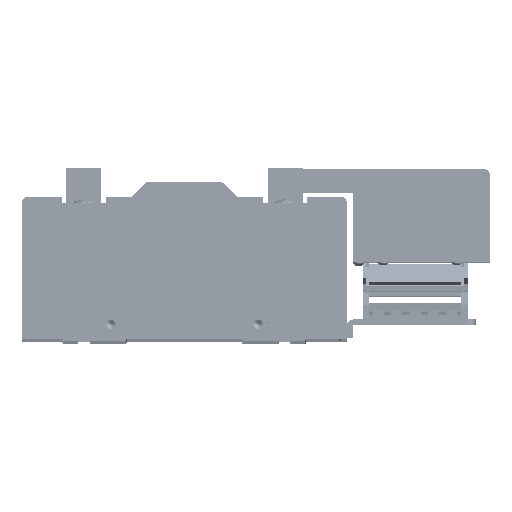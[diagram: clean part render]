
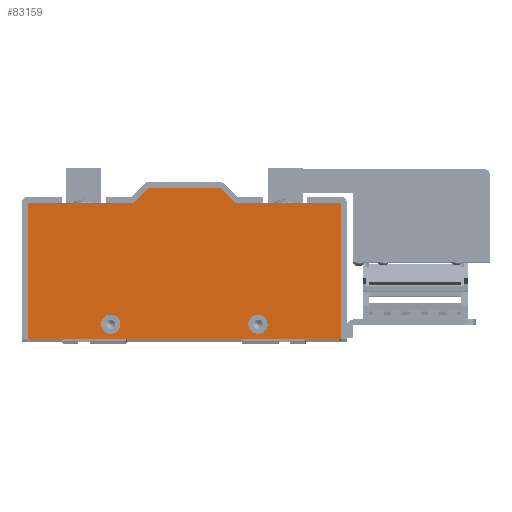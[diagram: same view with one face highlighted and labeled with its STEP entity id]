
A CAD part, top view. The second image highlights one B-rep face of the part: STEP entity #83159.
In plain terms, the highlighted planar face has unit normal (0, 0, 1).
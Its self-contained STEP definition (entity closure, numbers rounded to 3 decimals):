
#73671 = CARTESIAN_POINT ( 'NONE',  ( -34.75, -29., 9.525 ) ) ;
#73765 = DIRECTION ( 'NONE',  ( 1., 0., 0. ) ) ;
#73766 = DIRECTION ( 'NONE',  ( 0., 0., 1. ) ) ;
#73767 = CARTESIAN_POINT ( 'NONE',  ( -40., -29., 9.525 ) ) ;
#73768 = AXIS2_PLACEMENT_3D ( 'NONE', #73767, #73766, #73765 ) ;
#73770 = CIRCLE ( 'NONE', #73768, 5.25 ) ;
#73902 = CARTESIAN_POINT ( 'NONE',  ( -45.25, -29., 9.525 ) ) ;
#73980 = DIRECTION ( 'NONE',  ( 1., 0., 0. ) ) ;
#73981 = DIRECTION ( 'NONE',  ( 0., 0., 1. ) ) ;
#73982 = AXIS2_PLACEMENT_3D ( 'NONE', #74329, #73981, #73980 ) ;
#73983 = CIRCLE ( 'NONE', #73982, 5.25 ) ;
#74105 = CARTESIAN_POINT ( 'NONE',  ( -85., 37., 9.525 ) ) ;
#74217 = CARTESIAN_POINT ( 'NONE',  ( 45.25, -29., 9.525 ) ) ;
#74329 = CARTESIAN_POINT ( 'NONE',  ( 40., -29., 9.525 ) ) ;
#74407 = CARTESIAN_POINT ( 'NONE',  ( 34.75, -29., 9.525 ) ) ;
#74596 = DIRECTION ( 'NONE',  ( 0., -1., 0. ) ) ;
#74597 = VECTOR ( 'NONE', #74596, 1000. ) ;
#74598 = CARTESIAN_POINT ( 'NONE',  ( -85., 37., 9.525 ) ) ;
#74600 = LINE ( 'NONE', #74598, #74597 ) ;
#74838 = CARTESIAN_POINT ( 'NONE',  ( -85., -37., 9.525 ) ) ;
#77249 = CARTESIAN_POINT ( 'NONE',  ( 85., -37., 9.525 ) ) ;
#77765 = VERTEX_POINT ( 'NONE', #73671 ) ;
#77786 = VERTEX_POINT ( 'NONE', #73902 ) ;
#77835 = EDGE_CURVE ( 'NONE', #77786, #77765, #73770, .T. ) ;
#78017 = EDGE_CURVE ( 'NONE', #78388, #78344, #73983, .T. ) ;
#78344 = VERTEX_POINT ( 'NONE', #74217 ) ;
#78388 = VERTEX_POINT ( 'NONE', #74407 ) ;
#78452 = VERTEX_POINT ( 'NONE', #74105 ) ;
#78459 = EDGE_CURVE ( 'NONE', #78452, #78569, #74600, .T. ) ;
#78569 = VERTEX_POINT ( 'NONE', #74838 ) ;
#78828 = VERTEX_POINT ( 'NONE', #77249 ) ;
#79683 = EDGE_CURVE ( 'NONE', #78569, #78828, #89705, .T. ) ;
#79788 = EDGE_CURVE ( 'NONE', #78828, #79794, #90713, .T. ) ;
#79794 = VERTEX_POINT ( 'NONE', #90600 ) ;
#82525 = ORIENTED_EDGE ( 'NONE', *, *, #82778, .F. ) ;
#82749 = ORIENTED_EDGE ( 'NONE', *, *, #77835, .F. ) ;
#82751 = ORIENTED_EDGE ( 'NONE', *, *, #82759, .F. ) ;
#82753 = EDGE_CURVE ( 'NONE', #83044, #83043, #93710, .T. ) ;
#82759 = EDGE_CURVE ( 'NONE', #78344, #78388, #93667, .T. ) ;
#82770 = EDGE_CURVE ( 'NONE', #84221, #83127, #94050, .T. ) ;
#82778 = EDGE_CURVE ( 'NONE', #77765, #77786, #94251, .T. ) ;
#82784 = EDGE_CURVE ( 'NONE', #83127, #83044, #94304, .T. ) ;
#82790 = ORIENTED_EDGE ( 'NONE', *, *, #78017, .F. ) ;
#82791 = ORIENTED_EDGE ( 'NONE', *, *, #78459, .T. ) ;
#82988 = EDGE_LOOP ( 'NONE', ( #82791, #83315, #83320, #83133, #83139, #83313, #83321, #83272 ) ) ;
#82993 = EDGE_CURVE ( 'NONE', #83043, #78452, #97602, .T. ) ;
#82997 = EDGE_LOOP ( 'NONE', ( #82751, #82790 ) ) ;
#83043 = VERTEX_POINT ( 'NONE', #98261 ) ;
#83044 = VERTEX_POINT ( 'NONE', #98259 ) ;
#83053 = EDGE_LOOP ( 'NONE', ( #82525, #82749 ) ) ;
#83127 = VERTEX_POINT ( 'NONE', #98974 ) ;
#83133 = ORIENTED_EDGE ( 'NONE', *, *, #84042, .T. ) ;
#83139 = ORIENTED_EDGE ( 'NONE', *, *, #82770, .T. ) ;
#83159 = ADVANCED_FACE ( 'NONE', ( #98889, #98887, #98882 ), #98757, .T. ) ;
#83272 = ORIENTED_EDGE ( 'NONE', *, *, #82993, .T. ) ;
#83313 = ORIENTED_EDGE ( 'NONE', *, *, #82784, .T. ) ;
#83315 = ORIENTED_EDGE ( 'NONE', *, *, #79683, .T. ) ;
#83320 = ORIENTED_EDGE ( 'NONE', *, *, #79788, .T. ) ;
#83321 = ORIENTED_EDGE ( 'NONE', *, *, #82753, .T. ) ;
#84042 = EDGE_CURVE ( 'NONE', #79794, #84221, #106522, .T. ) ;
#84221 = VERTEX_POINT ( 'NONE', #107009 ) ;
#89702 = DIRECTION ( 'NONE',  ( 1., 0., 0. ) ) ;
#89703 = VECTOR ( 'NONE', #89702, 1000. ) ;
#89704 = CARTESIAN_POINT ( 'NONE',  ( -85., -37., 9.525 ) ) ;
#89705 = LINE ( 'NONE', #89704, #89703 ) ;
#90600 = CARTESIAN_POINT ( 'NONE',  ( 85., 37., 9.525 ) ) ;
#90711 = CARTESIAN_POINT ( 'NONE',  ( 85., 37., 9.525 ) ) ;
#90713 = LINE ( 'NONE', #90711, #90749 ) ;
#90748 = DIRECTION ( 'NONE',  ( 0., 1., 0. ) ) ;
#90749 = VECTOR ( 'NONE', #90748, 1000. ) ;
#93660 = DIRECTION ( 'NONE',  ( 1., 0., 0. ) ) ;
#93663 = DIRECTION ( 'NONE',  ( 0., 0., 1. ) ) ;
#93664 = CARTESIAN_POINT ( 'NONE',  ( 40., -29., 9.525 ) ) ;
#93665 = AXIS2_PLACEMENT_3D ( 'NONE', #93664, #93663, #93660 ) ;
#93667 = CIRCLE ( 'NONE', #93665, 5.25 ) ;
#93705 = DIRECTION ( 'NONE',  ( -0.707, -0.707, 0. ) ) ;
#93707 = VECTOR ( 'NONE', #93705, 1000. ) ;
#93709 = CARTESIAN_POINT ( 'NONE',  ( -27.5, 37., 9.525 ) ) ;
#93710 = LINE ( 'NONE', #93709, #93707 ) ;
#94050 = LINE ( 'NONE', #94265, #94264 ) ;
#94210 = DIRECTION ( 'NONE',  ( -1., 0., 0. ) ) ;
#94211 = VECTOR ( 'NONE', #94210, 1000. ) ;
#94249 = CARTESIAN_POINT ( 'NONE',  ( -40., -29., 9.525 ) ) ;
#94250 = AXIS2_PLACEMENT_3D ( 'NONE', #94249, #94314, #94312 ) ;
#94251 = CIRCLE ( 'NONE', #94250, 5.25 ) ;
#94262 = DIRECTION ( 'NONE',  ( -0.707, 0.707, 0. ) ) ;
#94264 = VECTOR ( 'NONE', #94262, 1000. ) ;
#94265 = CARTESIAN_POINT ( 'NONE',  ( 19.5, 45., 9.525 ) ) ;
#94302 = CARTESIAN_POINT ( 'NONE',  ( -19.5, 45., 9.525 ) ) ;
#94304 = LINE ( 'NONE', #94302, #94211 ) ;
#94312 = DIRECTION ( 'NONE',  ( 1., 0., 0. ) ) ;
#94314 = DIRECTION ( 'NONE',  ( 0., 0., 1. ) ) ;
#97486 = VECTOR ( 'NONE', #97600, 1000. ) ;
#97600 = DIRECTION ( 'NONE',  ( -1., 0., 0. ) ) ;
#97601 = CARTESIAN_POINT ( 'NONE',  ( -85., 37., 9.525 ) ) ;
#97602 = LINE ( 'NONE', #97601, #97486 ) ;
#98259 = CARTESIAN_POINT ( 'NONE',  ( -19.5, 45., 9.525 ) ) ;
#98261 = CARTESIAN_POINT ( 'NONE',  ( -27.5, 37., 9.525 ) ) ;
#98750 = DIRECTION ( 'NONE',  ( 0., 0., 1. ) ) ;
#98751 = CARTESIAN_POINT ( 'NONE',  ( -85., 37., 9.525 ) ) ;
#98753 = AXIS2_PLACEMENT_3D ( 'NONE', #98751, #98750, #98826 ) ;
#98757 = PLANE ( 'NONE',  #98753 ) ;
#98826 = DIRECTION ( 'NONE',  ( 1., 0., 0. ) ) ;
#98882 = FACE_OUTER_BOUND ( 'NONE', #82988, .T. ) ;
#98887 = FACE_BOUND ( 'NONE', #82997, .T. ) ;
#98889 = FACE_BOUND ( 'NONE', #83053, .T. ) ;
#98974 = CARTESIAN_POINT ( 'NONE',  ( 19.5, 45., 9.525 ) ) ;
#106519 = DIRECTION ( 'NONE',  ( -1., 0., 0. ) ) ;
#106520 = VECTOR ( 'NONE', #106519, 1000. ) ;
#106521 = CARTESIAN_POINT ( 'NONE',  ( 27.5, 37., 9.525 ) ) ;
#106522 = LINE ( 'NONE', #106521, #106520 ) ;
#107009 = CARTESIAN_POINT ( 'NONE',  ( 27.5, 37., 9.525 ) ) ;
